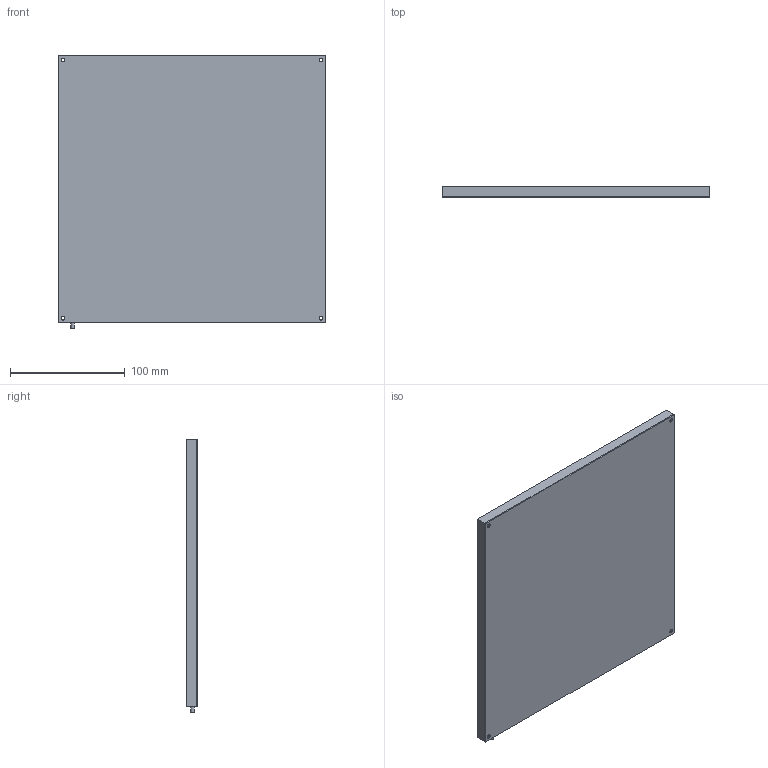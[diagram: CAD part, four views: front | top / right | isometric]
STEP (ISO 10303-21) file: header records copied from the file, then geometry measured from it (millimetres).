
FILE_DESCRIPTION(/* description */ (''),/* implementation_level */ '2;1');
FILE_NAME(/* name */ 'C:\#Vault-WorkDir\Konstruktions-Dokumente\Projekte\Zubehör allgemein\Falcon Beleuchtungen\153-00757_LF 200 xD-24-KFL5.stp',/* time_stamp */ '2018-07-25T10:47:11+02:00',/* author */ ('SensoPart'),/* organization */ ('SensoPart'),/* preprocessor_version */ 'ST-DEVELOPER v17',/* originating_system */ 'Autodesk Inventor 2018',/* authorisation */ '');
FILE_SCHEMA (('AUTOMOTIVE_DESIGN { 1 0 10303 214 3 1 1 }'));
Length unit declared in the file: millimetre
Products named in the file (1): GH-ENG-0026202_Shrinkwrap_1
Bounding box: 233 x 10 x 238 mm (x, y, z)
Volume: 522297.9 mm3; surface area: 118818.6 mm2
Topology: 1 solids, 1 shells, 37 faces, 95 edges, 70 vertices
Faces by surface type: plane 24, cylinder 13
Full cylindrical faces by diameter (mm): 3.1 x1, 3.3 x4, 3.4 x4, 6 x4
Entity records: 1242 total; most frequent: DIRECTION 221, CARTESIAN_POINT 203, ORIENTED_EDGE 190, EDGE_CURVE 95, AXIS2_PLACEMENT_3D 88, VERTEX_POINT 70, EDGE_LOOP 55, CIRCLE 50
